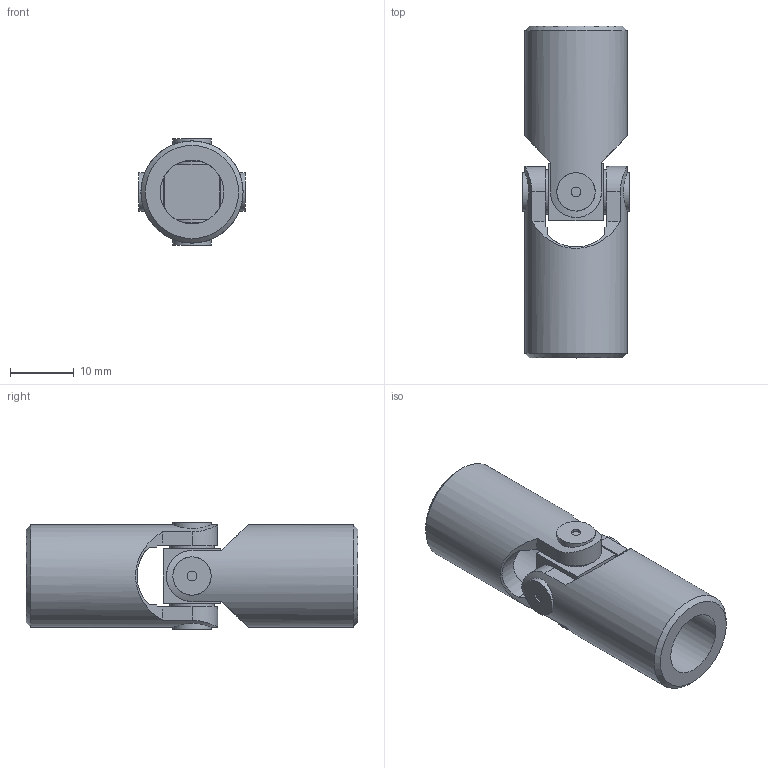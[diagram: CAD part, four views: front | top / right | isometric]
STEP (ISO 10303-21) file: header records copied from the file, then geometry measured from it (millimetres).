
FILE_DESCRIPTION(/* description */ ('EXTENSIBLE TRANSIMISSIONS Series G DIN 808 -2-'),/* implementation_level */ '2;1');
FILE_NAME(/* name */ '\\SRV2016\Societa\Stefano\Disegni 3D\Dis. Clienti\0000Catalogo 3D\01Singoli G-GB\03GB-00_SGBS1000.stp',/* time_stamp */ '2021-11-10T14:44:45+01:00',/* author */ ('acquisti'),/* organization */ ('MARIOFERRI'),/* preprocessor_version */ 'ST-DEVELOPER v15.6',/* originating_system */ 'Autodesk Inventor 2015',/* authorisation */ '');
FILE_SCHEMA (('AUTOMOTIVE_DESIGN { 1 0 10303 214 3 1 1 }'));
Length unit declared in the file: millimetre
Products named in the file (3): 01-02G SFE; 03GB MOS; Assieme4
Assembly tree (3 placements, depth 2):
  Assieme4
    01-02G SFE
    03GB MOS  x2
Bounding box: 16.7 x 52 x 16.7 mm (x, y, z)
Volume: 6277.5 mm3; surface area: 4866.5 mm2
Topology: 3 solids, 3 shells, 74 faces, 190 edges, 130 vertices
Faces by surface type: plane 40, cylinder 20, cone 10, torus 4
Full cylindrical faces by diameter (mm): 1.5 x4, 6 x4, 7 x4, 10 x2, 16 x2
Entity records: 1429 total; most frequent: CARTESIAN_POINT 428, DIRECTION 196, ORIENTED_EDGE 178, EDGE_CURVE 89, AXIS2_PLACEMENT_3D 83, VERTEX_POINT 67, EDGE_LOOP 64, FACE_OUTER_BOUND 44
